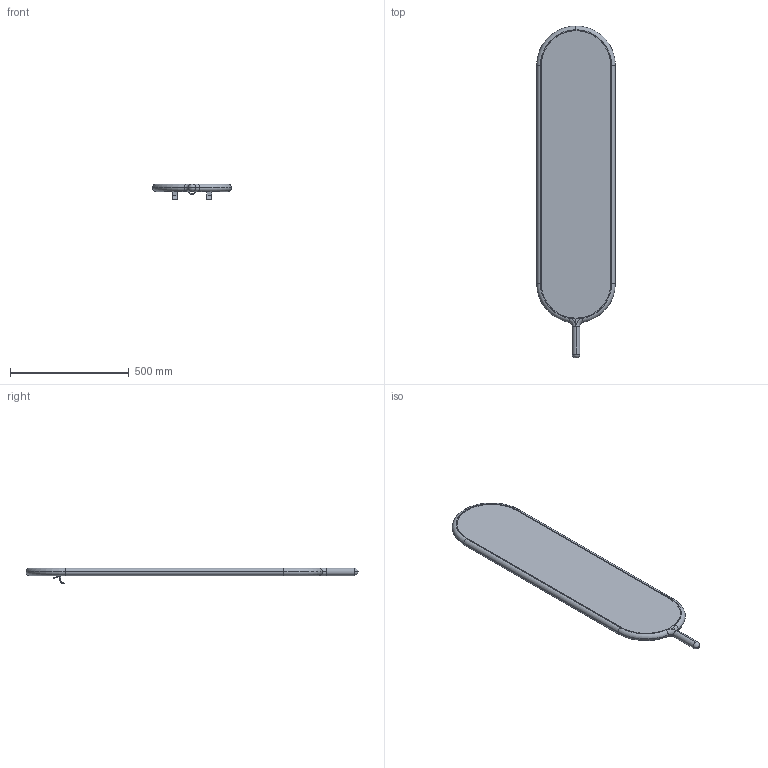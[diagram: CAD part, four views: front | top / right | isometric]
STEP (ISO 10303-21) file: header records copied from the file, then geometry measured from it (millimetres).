
FILE_DESCRIPTION (( 'STEP AP203' ), '1' );
FILE_NAME ('MARSHALL ZIDNO OGLEDALO.STEP', '2020-07-09T06:17:21', ( '' ), ( '' ), 'SwSTEP 2.0', 'SolidWorks 2020', '' );
FILE_SCHEMA (( 'CONFIG_CONTROL_DESIGN' ));
Length unit declared in the file: millimetre
Products named in the file (5): MARSHALL ZIDNO OGLEDALO; Group4^Zidno ogledalo MARSHALL_defeature; Group1^Zidno ogledalo MARSHALL_defeature; Ogledalo-1^Zidno ogledalo MARSHALL_defeature; Leda-1^Zidno ogledalo MARSHALL_defeature
Assembly tree (4 placements, depth 2):
  MARSHALL ZIDNO OGLEDALO
    Group1^Zidno ogledalo MARSHALL_defeature
    Group4^Zidno ogledalo MARSHALL_defeature
    Leda-1^Zidno ogledalo MARSHALL_defeature
    Ogledalo-1^Zidno ogledalo MARSHALL_defeature
Bounding box: 332 x 1400 x 67 mm (x, y, z)
Volume: 8648415.7 mm3; surface area: 1713563.4 mm2
Topology: 7 solids, 7 shells, 168 faces, 390 edges, 234 vertices
Faces by surface type: plane 69, cylinder 61, torus 26, cone 8, sphere 2, bspline 2
Entity records: 5614 total; most frequent: CARTESIAN_POINT 1189, DIRECTION 891, ORIENTED_EDGE 776, EDGE_CURVE 388, AXIS2_PLACEMENT_3D 344, VERTEX_POINT 234, VECTOR 203, LINE 203
